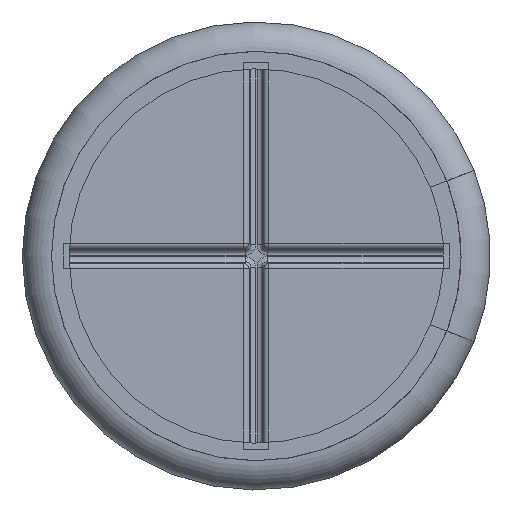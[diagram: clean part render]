
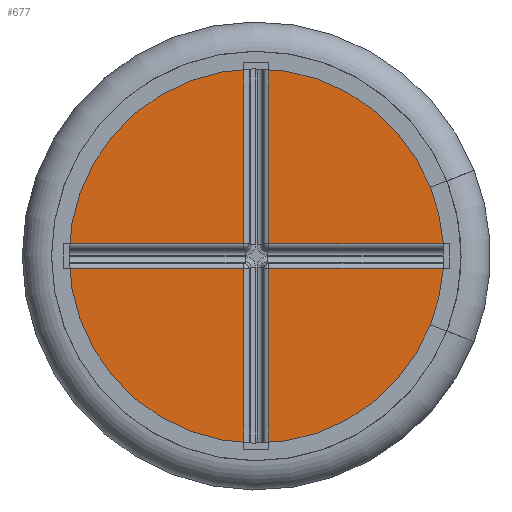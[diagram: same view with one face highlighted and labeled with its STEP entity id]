
A CAD part, front view. The second image highlights one B-rep face of the part: STEP entity #677.
In plain terms, the highlighted planar face has unit normal (0, -1, 0).
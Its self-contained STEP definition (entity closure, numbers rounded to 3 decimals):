
#115=FACE_BOUND('',#940,.T.);
#116=FACE_BOUND('',#941,.T.);
#633=PLANE('',#2470);
#677=ADVANCED_FACE('',(#115,#116),#633,.T.);
#940=EDGE_LOOP('',(#1374));
#941=EDGE_LOOP('',(#1375,#1376,#1377,#1378,#1379,#1380,#1381,#1382,#1383,
#1384,#1385,#1386));
#1066=LINE('',#3475,#1170);
#1067=LINE('',#3478,#1171);
#1068=LINE('',#3480,#1172);
#1069=LINE('',#3482,#1173);
#1070=LINE('',#3484,#1174);
#1071=LINE('',#3486,#1175);
#1072=LINE('',#3488,#1176);
#1073=LINE('',#3490,#1177);
#1074=LINE('',#3492,#1178);
#1075=LINE('',#3494,#1179);
#1076=LINE('',#3496,#1180);
#1077=LINE('',#3498,#1181);
#1170=VECTOR('',#2834,1.);
#1171=VECTOR('',#2835,1.);
#1172=VECTOR('',#2836,1.);
#1173=VECTOR('',#2837,1.);
#1174=VECTOR('',#2838,1.);
#1175=VECTOR('',#2839,1.);
#1176=VECTOR('',#2840,1.);
#1177=VECTOR('',#2841,1.);
#1178=VECTOR('',#2842,1.);
#1179=VECTOR('',#2843,1.);
#1180=VECTOR('',#2844,1.);
#1181=VECTOR('',#2845,1.);
#1374=ORIENTED_EDGE('',*,*,#2034,.T.);
#1375=ORIENTED_EDGE('',*,*,#2035,.F.);
#1376=ORIENTED_EDGE('',*,*,#2036,.T.);
#1377=ORIENTED_EDGE('',*,*,#2037,.T.);
#1378=ORIENTED_EDGE('',*,*,#2038,.T.);
#1379=ORIENTED_EDGE('',*,*,#2039,.T.);
#1380=ORIENTED_EDGE('',*,*,#2040,.T.);
#1381=ORIENTED_EDGE('',*,*,#2041,.T.);
#1382=ORIENTED_EDGE('',*,*,#2042,.T.);
#1383=ORIENTED_EDGE('',*,*,#2043,.T.);
#1384=ORIENTED_EDGE('',*,*,#2044,.F.);
#1385=ORIENTED_EDGE('',*,*,#2045,.T.);
#1386=ORIENTED_EDGE('',*,*,#2046,.T.);
#1838=VERTEX_POINT('',#3474);
#1839=VERTEX_POINT('',#3476);
#1840=VERTEX_POINT('',#3477);
#1841=VERTEX_POINT('',#3479);
#1842=VERTEX_POINT('',#3481);
#1843=VERTEX_POINT('',#3483);
#1844=VERTEX_POINT('',#3485);
#1845=VERTEX_POINT('',#3487);
#1846=VERTEX_POINT('',#3489);
#1847=VERTEX_POINT('',#3491);
#1848=VERTEX_POINT('',#3493);
#1849=VERTEX_POINT('',#3495);
#1850=VERTEX_POINT('',#3497);
#2034=EDGE_CURVE('',#1838,#1838,#2286,.T.);
#2035=EDGE_CURVE('',#1839,#1840,#1066,.T.);
#2036=EDGE_CURVE('',#1839,#1841,#1067,.T.);
#2037=EDGE_CURVE('',#1841,#1842,#1068,.T.);
#2038=EDGE_CURVE('',#1842,#1843,#1069,.T.);
#2039=EDGE_CURVE('',#1843,#1844,#1070,.T.);
#2040=EDGE_CURVE('',#1844,#1845,#1071,.T.);
#2041=EDGE_CURVE('',#1845,#1846,#1072,.T.);
#2042=EDGE_CURVE('',#1846,#1847,#1073,.T.);
#2043=EDGE_CURVE('',#1847,#1848,#1074,.T.);
#2044=EDGE_CURVE('',#1849,#1848,#1075,.T.);
#2045=EDGE_CURVE('',#1849,#1850,#1076,.T.);
#2046=EDGE_CURVE('',#1850,#1840,#1077,.T.);
#2286=CIRCLE('',#2469,3.5);
#2469=AXIS2_PLACEMENT_3D('',#3473,#2832,#2833);
#2470=AXIS2_PLACEMENT_3D('',#3499,#2846,#2847);
#2832=DIRECTION('',(0.,-1.,0.));
#2833=DIRECTION('',(0.,0.,-1.));
#2834=DIRECTION('',(0.,0.,1.));
#2835=DIRECTION('',(-1.,0.,0.));
#2836=DIRECTION('',(0.,0.,-1.));
#2837=DIRECTION('',(-1.,0.,0.));
#2838=DIRECTION('',(0.,0.,1.));
#2839=DIRECTION('',(-1.,0.,0.));
#2840=DIRECTION('',(0.,0.,1.));
#2841=DIRECTION('',(1.,0.,0.));
#2842=DIRECTION('',(0.,0.,1.));
#2843=DIRECTION('',(-1.,0.,0.));
#2844=DIRECTION('',(0.,0.,-1.));
#2845=DIRECTION('',(1.,0.,0.));
#2846=DIRECTION('',(0.,-1.,0.));
#2847=DIRECTION('',(0.,0.,-1.));
#3473=CARTESIAN_POINT('',(0.,0.1,0.));
#3474=CARTESIAN_POINT('',(0.,0.1,-3.5));
#3475=CARTESIAN_POINT('',(3.3,0.1,-0.15));
#3476=CARTESIAN_POINT('',(3.3,0.1,-0.212));
#3477=CARTESIAN_POINT('',(3.3,0.1,0.212));
#3478=CARTESIAN_POINT('',(0.15,0.1,-0.212));
#3479=CARTESIAN_POINT('',(0.212,0.1,-0.212));
#3480=CARTESIAN_POINT('',(0.212,0.1,-3.3));
#3481=CARTESIAN_POINT('',(0.212,0.1,-3.3));
#3482=CARTESIAN_POINT('',(0.15,0.1,-3.3));
#3483=CARTESIAN_POINT('',(-0.212,0.1,-3.3));
#3484=CARTESIAN_POINT('',(-0.212,0.1,-0.15));
#3485=CARTESIAN_POINT('',(-0.212,0.1,-0.212));
#3486=CARTESIAN_POINT('',(-3.3,0.1,-0.212));
#3487=CARTESIAN_POINT('',(-3.3,0.1,-0.212));
#3488=CARTESIAN_POINT('',(-3.3,0.1,-0.15));
#3489=CARTESIAN_POINT('',(-3.3,0.1,0.212));
#3490=CARTESIAN_POINT('',(-0.15,0.1,0.212));
#3491=CARTESIAN_POINT('',(-0.212,0.1,0.212));
#3492=CARTESIAN_POINT('',(-0.212,0.1,3.3));
#3493=CARTESIAN_POINT('',(-0.212,0.1,3.3));
#3494=CARTESIAN_POINT('',(0.15,0.1,3.3));
#3495=CARTESIAN_POINT('',(0.212,0.1,3.3));
#3496=CARTESIAN_POINT('',(0.212,0.1,0.15));
#3497=CARTESIAN_POINT('',(0.212,0.1,0.212));
#3498=CARTESIAN_POINT('',(3.3,0.1,0.212));
#3499=CARTESIAN_POINT('',(0.,0.1,0.));
